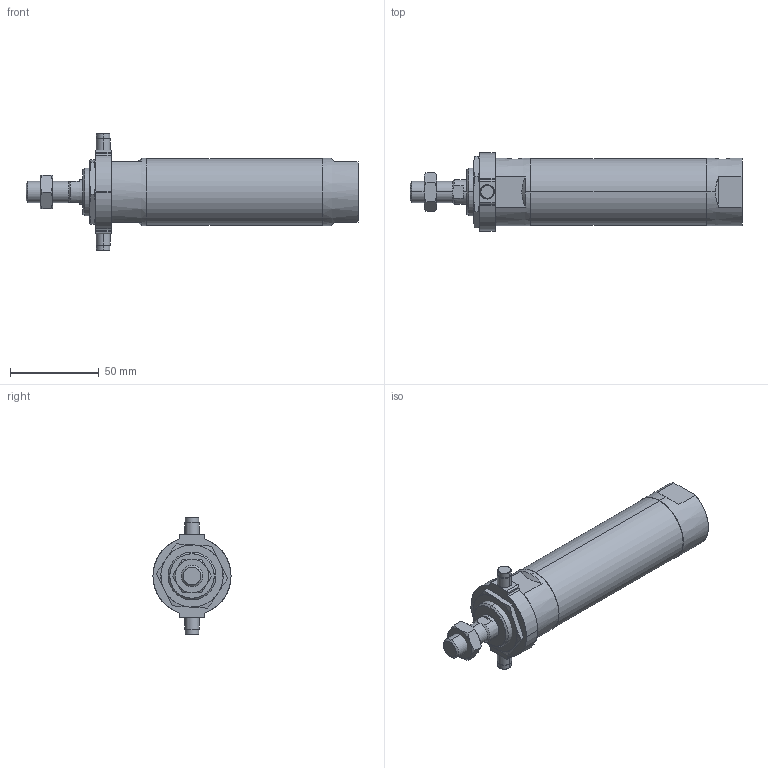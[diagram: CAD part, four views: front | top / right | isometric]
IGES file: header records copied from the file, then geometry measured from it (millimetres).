
Start section: SolidWorks IGES file using analytic representation for surfaces
Global section: file name: C:\Users\Toshiba\Desktop\JGND2-32-50-T.IGS; native system: SolidWorks 2014; preprocessor: SolidWorks 2014; author: Toshiba; date: 160804.104852; units: millimetre
Bounding box: 187 x 44 x 66 mm (x, y, z)
Surface area: 29790.8 mm2 (no closed solid volume)
Topology: 0 solids, 0 shells, 128 faces, 2076 edges, 2072 vertices
Faces by surface type: bspline 66, revolution 62
